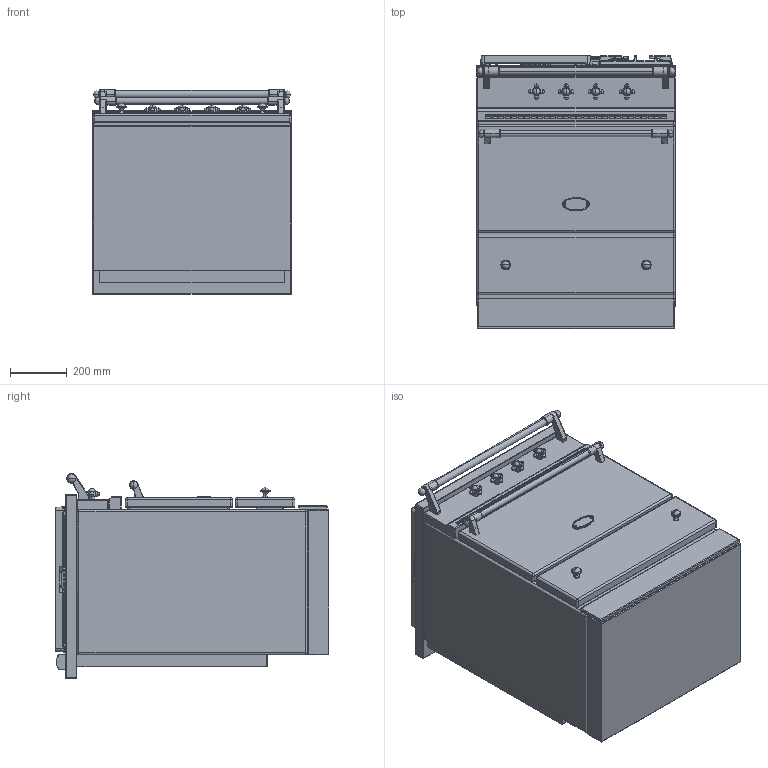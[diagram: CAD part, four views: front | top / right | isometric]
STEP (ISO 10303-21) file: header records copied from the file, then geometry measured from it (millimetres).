
FILE_DESCRIPTION((''),'2;1');
FILE_NAME('LCF731_ASM','2021-12-01T16:24:10',('j.cheno'),(''),'CREO PARAMETRIC BY PTC INC, 2017260','CREO PARAMETRIC BY PTC INC, 2017260','');
FILE_SCHEMA(('AP203_CONFIGURATION_CONTROLLED_3D_DESIGN_OF_MECHANICAL_PARTS_AND_ASSEMBLIES_MIM_LF { 1 0 10303 403 2 1 2 }'));
Products named in the file (26): BASE_EXPORT_CORMATIN_3F; 65650003; 65650004; 6531940; 6531941; 6538399; 1931942; 65080022_AF0; 6531942_ASM; 6531943; 65049009; 65650001; BASE_EXPORT_CORMATIN_3F_ASM; TABLE_700_CLASSIQUE_3F; 5KW; 1_5KW; 3KW; 6537024; 65149005; 90000487_ASM; 65062008; 65062012; 90000549_ASM; CHEMINEE_2020_LG371_EXPORT_STEP; TABLE_700_TRADITION_ASM; LCF731_ASM
Assembly tree (36 placements, depth 4):
  LCF731_ASM
    BASE_EXPORT_CORMATIN_3F_ASM
      BASE_EXPORT_CORMATIN_3F
      65650003
      65650004
      6531940
      6531941
      6531942_ASM  x4
        6538399
        1931942
        65080022_AF0
      6531943  x2
      65049009
      65650001
    TABLE_700_TRADITION_ASM
      TABLE_700_CLASSIQUE_3F
      5KW
      1_5KW
      3KW
      90000487_ASM
        6537024
        65149005  x4
      90000549_ASM
        65062008
        65062012
        65149005  x4
      CHEMINEE_2020_LG371_EXPORT_STEP
Bounding box: 700 x 967 x 724 mm (x, y, z)
Volume: 373082859.7 mm3; surface area: 6720270.1 mm2
Topology: 43 solids, 49 shells, 6027 faces, 15483 edges, 9604 vertices
Faces by surface type: plane 3005, cylinder 1585, bspline 624, sphere 247, torus 240, cone 184, extrusion 134, revolution 8
Entity records: 208463 total; most frequent: CARTESIAN_POINT 56991, ORIENTED_EDGE 24918, DIRECTION 22494, EDGE_CURVE 12469, PRESENTATION_STYLE_ASSIGNMENT 9370, STYLED_ITEM 9347, CURVE_STYLE 9200, VECTOR 8217
